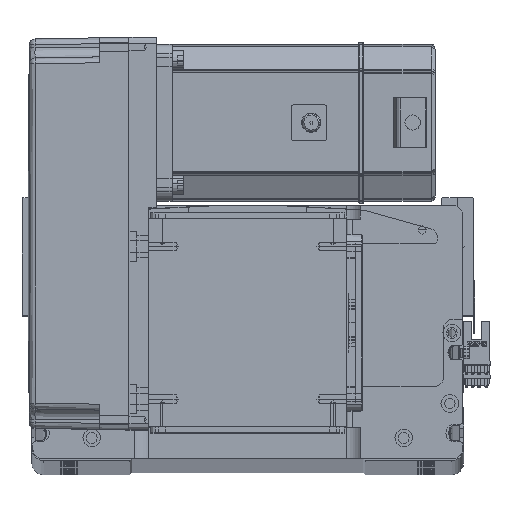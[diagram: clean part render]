
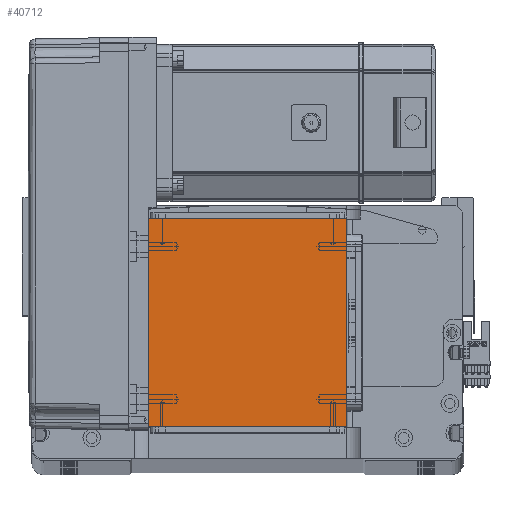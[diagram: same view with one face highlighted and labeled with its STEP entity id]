
A CAD part, top view. The second image highlights one B-rep face of the part: STEP entity #40712.
In plain terms, the highlighted planar face has unit normal (0, 0, 1).
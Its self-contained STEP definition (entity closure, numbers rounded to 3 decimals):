
#4081 = EDGE_CURVE ( 'NONE', #15608, #11346, #12434, .T. ) ;
#7131 = DIRECTION ( 'NONE',  ( 0., 1., 0. ) ) ;
#11346 = VERTEX_POINT ( 'NONE', #42161 ) ;
#12434 = LINE ( 'NONE', #43332, #43267 ) ;
#12557 = CARTESIAN_POINT ( 'NONE',  ( 50.5, 16., 115. ) ) ;
#13991 = EDGE_CURVE ( 'NONE', #29116, #15608, #58524, .T. ) ;
#15608 = VERTEX_POINT ( 'NONE', #20196 ) ;
#15729 = CARTESIAN_POINT ( 'NONE',  ( 50.5, 122., 115. ) ) ;
#19353 = DIRECTION ( 'NONE',  ( 0., -1., 0. ) ) ;
#19435 = VECTOR ( 'NONE', #33024, 1000. ) ;
#19843 = LINE ( 'NONE', #47803, #31821 ) ;
#20196 = CARTESIAN_POINT ( 'NONE',  ( -50.5, 122., 115. ) ) ;
#23733 = EDGE_LOOP ( 'NONE', ( #37459, #53875, #44900, #60214 ) ) ;
#23794 = PLANE ( 'NONE',  #54671 ) ;
#26020 = CARTESIAN_POINT ( 'NONE',  ( 50.5, 122., 115. ) ) ;
#26252 = VERTEX_POINT ( 'NONE', #12557 ) ;
#27945 = DIRECTION ( 'NONE',  ( 1., 0., 0. ) ) ;
#29116 = VERTEX_POINT ( 'NONE', #15729 ) ;
#29468 = EDGE_CURVE ( 'NONE', #11346, #26252, #19843, .T. ) ;
#31821 = VECTOR ( 'NONE', #57285, 1000. ) ;
#33024 = DIRECTION ( 'NONE',  ( -1., 0., 0. ) ) ;
#36607 = VECTOR ( 'NONE', #7131, 1000. ) ;
#37459 = ORIENTED_EDGE ( 'NONE', *, *, #4081, .T. ) ;
#40712 = ADVANCED_FACE ( 'NONE', ( #56355 ), #23794, .T. ) ;
#42161 = CARTESIAN_POINT ( 'NONE',  ( -50.5, 16., 115. ) ) ;
#43267 = VECTOR ( 'NONE', #19353, 1000. ) ;
#43332 = CARTESIAN_POINT ( 'NONE',  ( -50.5, 122., 115. ) ) ;
#44900 = ORIENTED_EDGE ( 'NONE', *, *, #54140, .T. ) ;
#47803 = CARTESIAN_POINT ( 'NONE',  ( -50.5, 16., 115. ) ) ;
#51945 = CARTESIAN_POINT ( 'NONE',  ( -50.5, 122., 115. ) ) ;
#52142 = CARTESIAN_POINT ( 'NONE',  ( 0., 0., 115. ) ) ;
#52367 = DIRECTION ( 'NONE',  ( 0., 0., 1. ) ) ;
#53875 = ORIENTED_EDGE ( 'NONE', *, *, #29468, .T. ) ;
#54140 = EDGE_CURVE ( 'NONE', #26252, #29116, #58482, .T. ) ;
#54671 = AXIS2_PLACEMENT_3D ( 'NONE', #52142, #52367, #27945 ) ;
#56355 = FACE_OUTER_BOUND ( 'NONE', #23733, .T. ) ;
#57285 = DIRECTION ( 'NONE',  ( 1., 0., 0. ) ) ;
#58482 = LINE ( 'NONE', #26020, #36607 ) ;
#58524 = LINE ( 'NONE', #51945, #19435 ) ;
#60214 = ORIENTED_EDGE ( 'NONE', *, *, #13991, .T. ) ;
